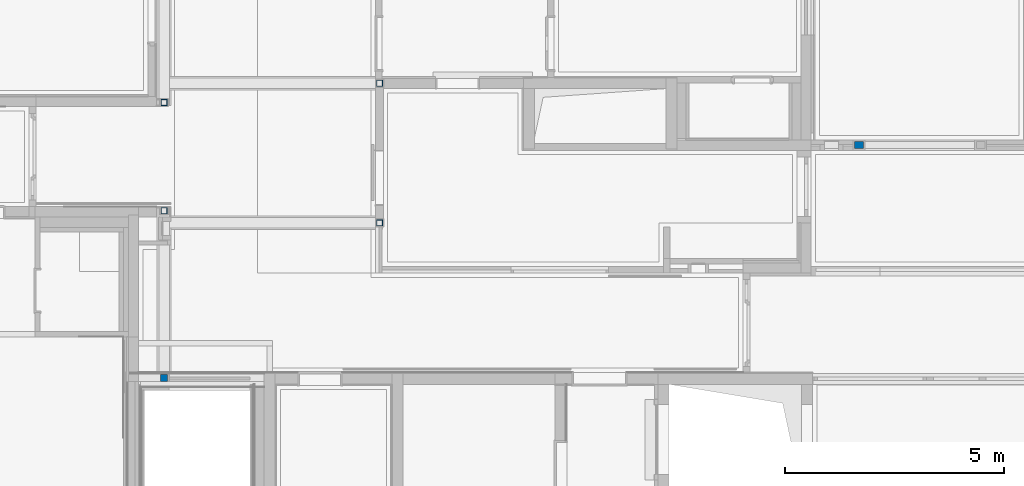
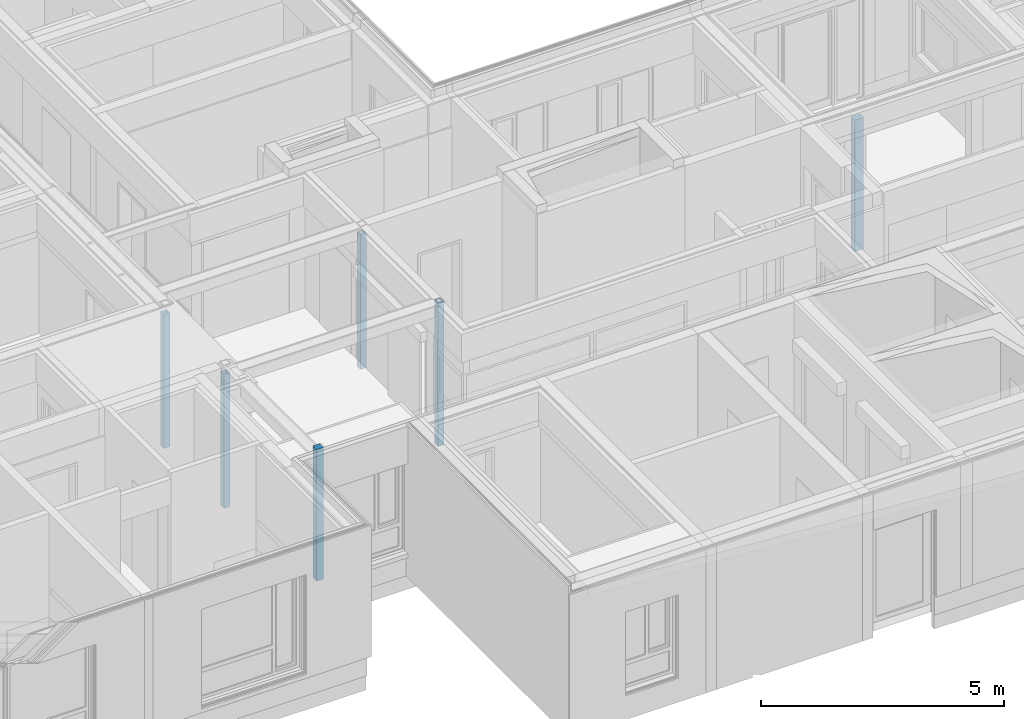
# One storey, part 1 of 207: 6 columns.
"""IFC4 building model written with IfcOpenShell, lengths in metres."""

from ifc_helpers import new_model, entity, si_unit, converted_unit, derived_unit, frame, frame_2d, origin, origin_with_axes, place, context, subcontext, project, spatial, polyline, rectangle, outline, extrude, material, element, save


model = new_model("IFC4")

# Units and contexts
model_context = context("Model", 3, precision=1e-05, world=origin())
body_context = subcontext(model_context, "Body", "Model", "MODEL_VIEW")
ifc_project = project(units=[si_unit("LENGTHUNIT", "METRE"), si_unit("AREAUNIT", "SQUARE_METRE"), si_unit("VOLUMEUNIT", "CUBIC_METRE"), si_unit("MASSUNIT", "GRAM", prefix="KILO"), converted_unit("PLANEANGLEUNIT", "DEGREE", entity("IfcPlaneAngleMeasure", 0.0174532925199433), si_unit("PLANEANGLEUNIT", "RADIAN"), dimensions=[0, 0, 0, 0, 0, 0, 0]), derived_unit("THERMALTRANSMITTANCEUNIT", [(si_unit("POWERUNIT", "WATT"), 1), (si_unit("THERMODYNAMICTEMPERATUREUNIT", "KELVIN"), -1), (si_unit("LENGTHUNIT", "METRE"), -2)]), derived_unit("VOLUMETRICFLOWRATEUNIT", [(si_unit("LENGTHUNIT", "METRE"), 3), (converted_unit("TIMEUNIT", "hour", entity("IfcTimeMeasure", 3600.0), si_unit("TIMEUNIT", "SECOND"), dimensions=[0, 0, 1, 0, 0, 0, 0]), -1), (si_unit("LENGTHUNIT", "METRE"), -1)])], contexts=[model_context])

# Site, building, storey
site_placement = place(None, origin())
site = spatial("IfcSite", under=ifc_project, at=site_placement, Name="Psychiatrie Neubau Wunstorf", CompositionType="ELEMENT")
building_placement = place(site_placement, origin())
building = spatial("IfcBuilding", under=site, at=building_placement, Name="Neubau H2 Stationsgebäude", CompositionType="ELEMENT")
storey_placement = place(building_placement, frame((0.0, 0.0, -0.2)))
storey = spatial("IfcBuildingStorey", under=building, at=storey_placement, Name="H2 Ebene 0", CompositionType="ELEMENT", Elevation=-0.2)

# Columns
ifc_material_1 = material(Name="H-ST")
column_1_placement = place(storey_placement, frame((35.6649950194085, 0.3399963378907, 0.5)))
element("IfcColumn", 1, at=column_1_placement, inside=storey, material=ifc_material_1, PredefinedType="COLUMN", context=body_context, shape_type="SweptSolid", body=[
    extrude(rectangle(XDim=0.16, YDim=0.16, at=frame_2d((0.08, 0.08), x_axis=(1.0, 0.0))), origin_with_axes(), (0.0, 0.0, 1.0), 3.3),
])
ifc_material_2 = material(Name="QRO")
column_2_placement = place(storey_placement, frame((40.5949975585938, 3.88999694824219, 0.0)))
element("IfcColumn", 2, at=column_2_placement, inside=storey, material=ifc_material_2, Name="QRO 140x5", PredefinedType="COLUMN", context=body_context, shape_type="SweptSolid", body=[
    extrude(outline(polyline([(0.0, 0.0), (0.14, 0.0), (0.14, 0.14), (0.0, 0.14), (0.0, 0.0)]), holes=[polyline([(0.005, 0.005), (0.005, 0.135), (0.135, 0.135), (0.135, 0.005), (0.005, 0.005)])]), origin_with_axes(), (0.0, 0.0, 1.0), 3.6),
])
ifc_material_3 = material(Name="QRO")
column_3_placement = place(storey_placement, frame((35.6752396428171, 6.63699856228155, 0.0)))
element("IfcColumn", 3, at=column_3_placement, inside=storey, material=ifc_material_3, Name="QRO 140x5", PredefinedType="COLUMN", context=body_context, shape_type="SweptSolid", body=[
    extrude(outline(polyline([(0.0, 0.0), (0.14, 0.0), (0.14, 0.14), (0.0, 0.14), (0.0, 0.0)]), holes=[polyline([(0.005, 0.005), (0.005, 0.135), (0.135, 0.135), (0.135, 0.005), (0.005, 0.005)])]), origin_with_axes(), (0.0, 0.0, 1.0), 3.37),
])
ifc_material_4 = material(Name="QRO")
column_4_placement = place(storey_placement, frame((35.6749950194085, 4.16574963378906, 0.0)))
element("IfcColumn", 4, at=column_4_placement, inside=storey, material=ifc_material_4, Name="QRO 140x5", PredefinedType="COLUMN", context=body_context, shape_type="SweptSolid", body=[
    extrude(outline(polyline([(0.0, 0.0), (0.14, 0.0), (0.14, 0.14), (0.0, 0.14), (0.0, 0.0)]), holes=[polyline([(0.005, 0.005), (0.005, 0.135), (0.135, 0.135), (0.135, 0.005), (0.005, 0.005)])]), origin_with_axes(), (0.0, 0.0, 1.0), 3.37),
])
ifc_material_5 = material(Name="QRO")
column_5_placement = place(storey_placement, frame((40.5949975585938, 7.07649969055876, 0.0)))
element("IfcColumn", 5, at=column_5_placement, inside=storey, material=ifc_material_5, Name="QRO 140x5", PredefinedType="COLUMN", context=body_context, shape_type="SweptSolid", body=[
    extrude(outline(polyline([(0.0, 0.0), (0.14, 0.0), (0.14, 0.14), (0.0, 0.14), (0.0, 0.0)]), holes=[polyline([(0.005, 0.005), (0.005, 0.135), (0.135, 0.135), (0.135, 0.005), (0.005, 0.005)])]), origin_with_axes(), (0.0, 0.0, 1.0), 3.37),
])
ifc_material_6 = material(Name="H")
column_6_placement = place(storey_placement, frame((51.7119953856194, 5.65349969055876, 0.0)))
element("IfcColumn", 6, at=column_6_placement, inside=storey, material=ifc_material_6, PredefinedType="COLUMN", context=body_context, shape_type="SweptSolid", body=[
    extrude(rectangle(XDim=0.16, YDim=0.2, at=frame_2d((-0.1, 0.08), x_axis=(0.0, 1.0))), origin_with_axes(), (0.0, 0.0, 1.0), 3.3),
])

save(model, "model.ifc")
